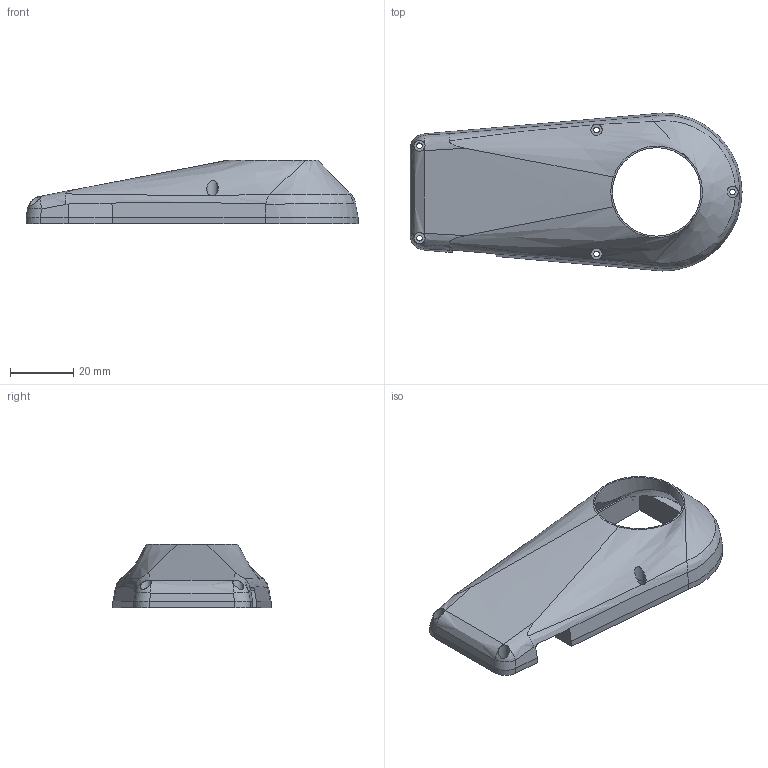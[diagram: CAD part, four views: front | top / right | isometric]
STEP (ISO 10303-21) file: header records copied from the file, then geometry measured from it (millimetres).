
FILE_DESCRIPTION(/* description */ ('','CAx-IF Rec.Pracs.---Representation and Presentation of Product Manufacturing Information (PMI)---4.0---2014-10-13'),/* implementation_level */ '2;1');
FILE_NAME(/* name */ 'frame_top.stp',/* time_stamp */ '2026-06-07T10:14:56+02:00',/* author */ ('R5800u'),/* organization */ (''),/* preprocessor_version */ 'ST-DEVELOPER v20',/* originating_system */ 'Autodesk Inventor 2025',/* authorisation */ '');
FILE_SCHEMA (('AP242_MANAGED_MODEL_BASED_3D_ENGINEERING_MIM_LF { 1 0 10303 442 1 1 4 }'));
Length unit declared in the file: millimetre
Products named in the file (1): frame_top
Bounding box: 105 x 50 x 20 mm (x, y, z)
Volume: 21101.6 mm3; surface area: 14253.7 mm2
Topology: 1 solids, 1 shells, 98 faces, 292 edges, 192 vertices
Faces by surface type: plane 53, cylinder 20, bspline 16, cone 5, sphere 4
Full cylindrical faces by diameter (mm): 1.8 x5, 3.5 x2, 3.6 x3, 28 x1
Entity records: 5029 total; most frequent: CARTESIAN_POINT 2496, ORIENTED_EDGE 584, DIRECTION 420, EDGE_CURVE 292, VERTEX_POINT 192, AXIS2_PLACEMENT_3D 156, B_SPLINE_CURVE_WITH_KNOTS 116, EDGE_LOOP 112
